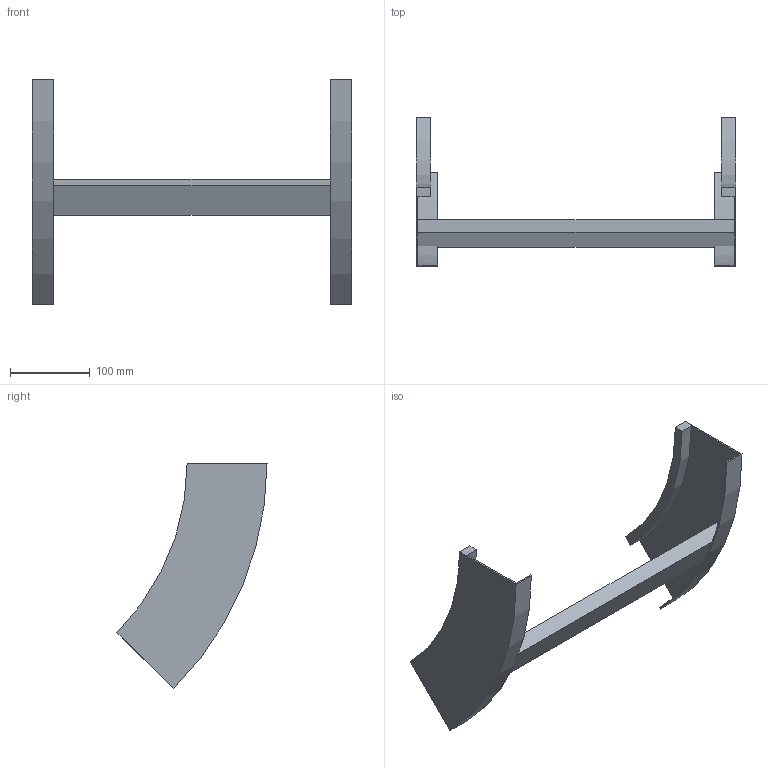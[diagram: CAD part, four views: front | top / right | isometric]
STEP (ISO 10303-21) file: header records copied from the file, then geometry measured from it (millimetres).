
FILE_DESCRIPTION (( 'STEP AP214' ), '1' );
FILE_NAME ('B2X31B3D400XX.step', '2025-03-20T10:05:16', ( '' ), ( '' ), 'SwSTEP 2.0', 'SolidWorks 2023', '' );
FILE_SCHEMA (( 'AUTOMOTIVE_DESIGN' ));
Length unit declared in the file: millimetre
Products named in the file (3): B2_LONGH.SALITA_45°_H100_R300; B2X31B3D400XX; TRAVERSINO_400
Assembly tree (3 placements, depth 2):
  B2X31B3D400XX
    B2_LONGH.SALITA_45°_H100_R300  x2
    TRAVERSINO_400
Bounding box: 400 x 187.87 x 282.84 mm (x, y, z)
Volume: 554340.6 mm3; surface area: 210177.5 mm2
Topology: 3 solids, 3 shells, 26 faces, 60 edges, 40 vertices
Faces by surface type: plane 18, cylinder 8
Entity records: 544 total; most frequent: DIRECTION 88, CARTESIAN_POINT 82, ORIENTED_EDGE 72, EDGE_CURVE 36, AXIS2_PLACEMENT_3D 30, VECTOR 28, LINE 28, VERTEX_POINT 24
